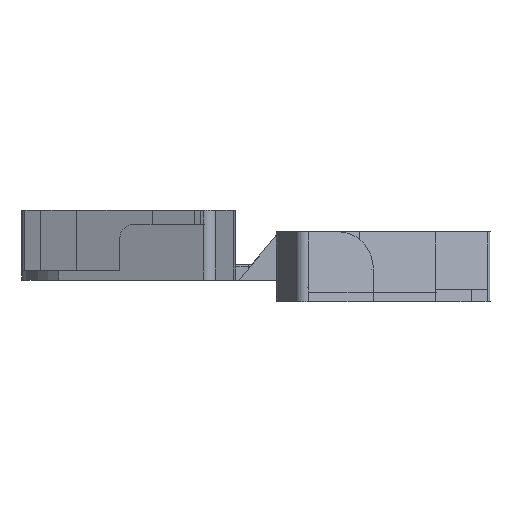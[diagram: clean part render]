
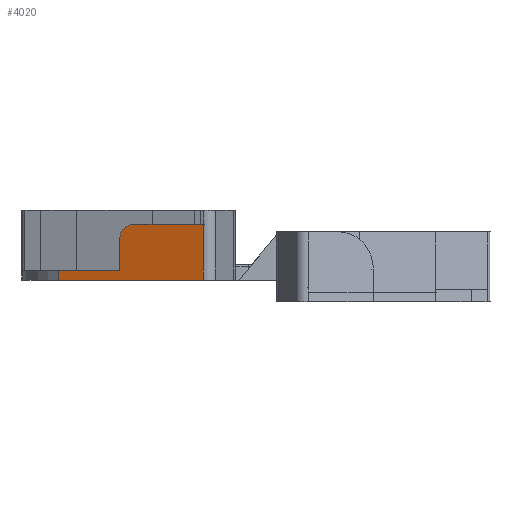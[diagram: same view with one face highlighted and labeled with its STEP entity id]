
A CAD part, left-side view. The second image highlights one B-rep face of the part: STEP entity #4020.
In plain terms, the highlighted planar face has unit normal (-0.928, 0.372, 0).
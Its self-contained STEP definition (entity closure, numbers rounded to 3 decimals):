
#49=ELLIPSE('',#4315,3.232,3.);
#180=PLANE('',#4314);
#335=FACE_OUTER_BOUND('',#560,.T.);
#560=EDGE_LOOP('',(#3155,#3156,#3157,#3158,#3159,#3160,#3161));
#835=LINE('',#5986,#1303);
#839=LINE('',#6000,#1307);
#843=LINE('',#6014,#1311);
#907=LINE('',#6156,#1375);
#911=LINE('',#6165,#1379);
#912=LINE('',#6167,#1380);
#1303=VECTOR('',#4825,10.);
#1307=VECTOR('',#4837,10.);
#1311=VECTOR('',#4851,10.);
#1375=VECTOR('',#4983,10.);
#1379=VECTOR('',#4993,10.);
#1380=VECTOR('',#4996,10.);
#1799=VERTEX_POINT('',#5983);
#1800=VERTEX_POINT('',#5985);
#1806=VERTEX_POINT('',#5999);
#1811=VERTEX_POINT('',#6013);
#1853=VERTEX_POINT('',#6149);
#1854=VERTEX_POINT('',#6153);
#1857=VERTEX_POINT('',#6163);
#2228=EDGE_CURVE('',#1799,#1800,#835,.T.);
#2235=EDGE_CURVE('',#1800,#1806,#839,.T.);
#2242=EDGE_CURVE('',#1806,#1811,#843,.T.);
#2313=EDGE_CURVE('',#1853,#1854,#907,.T.);
#2318=EDGE_CURVE('',#1857,#1811,#911,.T.);
#2319=EDGE_CURVE('',#1853,#1799,#912,.T.);
#2320=EDGE_CURVE('',#1857,#1854,#49,.T.);
#3155=ORIENTED_EDGE('',*,*,#2319,.F.);
#3156=ORIENTED_EDGE('',*,*,#2313,.T.);
#3157=ORIENTED_EDGE('',*,*,#2320,.F.);
#3158=ORIENTED_EDGE('',*,*,#2318,.T.);
#3159=ORIENTED_EDGE('',*,*,#2242,.F.);
#3160=ORIENTED_EDGE('',*,*,#2235,.F.);
#3161=ORIENTED_EDGE('',*,*,#2228,.F.);
#4020=ADVANCED_FACE('',(#335),#180,.T.);
#4314=AXIS2_PLACEMENT_3D('',#6166,#4994,#4995);
#4315=AXIS2_PLACEMENT_3D('',#6168,#4997,#4998);
#4825=DIRECTION('',(0.372,0.928,0.));
#4837=DIRECTION('',(0.,0.,1.));
#4851=DIRECTION('',(-0.372,-0.928,0.));
#4983=DIRECTION('',(0.372,0.928,0.));
#4993=DIRECTION('',(0.,0.,-1.));
#4994=DIRECTION('center_axis',(-0.928,0.372,0.));
#4995=DIRECTION('ref_axis',(0.,0.,1.));
#4996=DIRECTION('',(0.,0.,-1.));
#4997=DIRECTION('center_axis',(0.928,-0.372,0.));
#4998=DIRECTION('ref_axis',(0.372,0.928,0.));
#5983=CARTESIAN_POINT('',(-27.981,-36.846,0.));
#5985=CARTESIAN_POINT('',(-15.482,-5.673,0.));
#5986=CARTESIAN_POINT('',(-27.981,-36.846,0.));
#5999=CARTESIAN_POINT('',(-15.482,-5.673,2.));
#6000=CARTESIAN_POINT('',(-15.482,-5.673,0.));
#6013=CARTESIAN_POINT('',(-20.777,-18.878,2.));
#6014=CARTESIAN_POINT('',(-27.981,-36.846,2.));
#6149=CARTESIAN_POINT('',(-27.981,-36.846,12.));
#6153=CARTESIAN_POINT('',(-21.98,-21.878,12.));
#6156=CARTESIAN_POINT('',(-11.953,3.13,12.));
#6163=CARTESIAN_POINT('',(-20.777,-18.878,9.));
#6165=CARTESIAN_POINT('',(-20.777,-18.878,7.));
#6166=CARTESIAN_POINT('Origin',(-27.981,-36.846,2.));
#6167=CARTESIAN_POINT('',(-27.981,-36.846,2.));
#6168=CARTESIAN_POINT('Origin',(-21.98,-21.878,9.));
